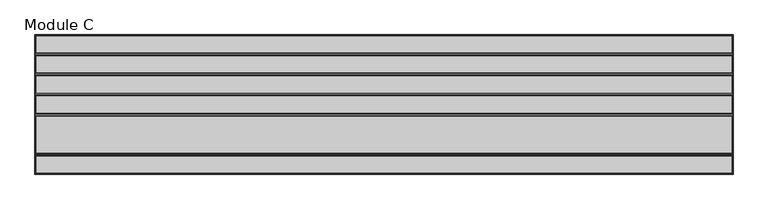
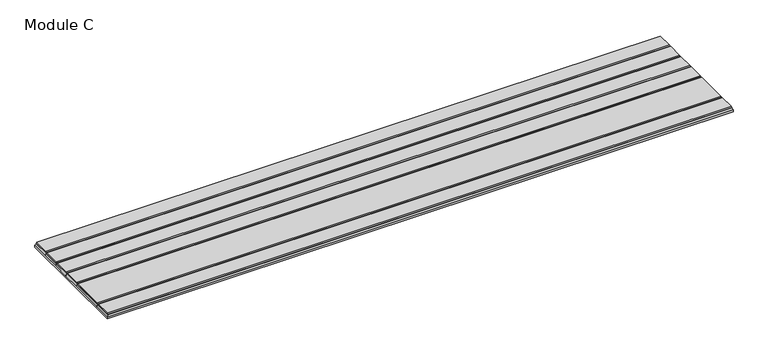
"""IFC4 building model written with IfcOpenShell, lengths in millimetres: proxy geometry, FilzFelt_Gap : Module C."""

from ifc_helpers import new_model, si_unit, origin, place, context, project, spatial, faceted_brep, source, transform, mapped, element, save


def module_c_0c66536b(model_context):
    return source(origin(), model_context, "Body", "Brep", [
        faceted_brep([(-760.095, -150.495, 9.525), (760.095, -150.495, 9.525), (760.095, -110.7621429, 9.525), (-760.095, -110.7621429, 9.525), (760.095, 150.495, 9.525), (-760.095, 150.495, 9.525), (-760.095, 110.7621429, 9.525), (760.095, 110.7621429, 9.525), (760.095, 67.2192857, 9.525), (760.095, 106.9521429, 9.525), (-760.095, 106.9521429, 9.525), (-760.095, 67.2192857, 9.525), (760.095, 23.6764286, 9.525), (760.095, 63.4092857, 9.525), (-760.095, 63.4092857, 9.525), (-760.095, 23.6764286, 9.525), (760.095, -19.8664286, 9.525), (760.095, 19.8664286, 9.525), (-760.095, 19.8664286, 9.525), (-760.095, -19.8664286, 9.525), (760.095, -106.9521429, 9.525), (760.095, -23.6764286, 9.525), (-760.095, -23.6764286, 9.525), (-760.095, -106.9521429, 9.525), (762.0, 152.4, 0.0), (762.0, -152.4, 0.0), (-762.0, -152.4, 0.0), (-762.0, 152.4, 0.0), (-762.0, 152.4, 4.7625), (762.0, 152.4, 4.7625), (-762.0, -152.4, 4.7625), (-762.0, -108.8571429, 4.7625), (-762.0, -21.7714286, 4.7625), (-762.0, 21.7714286, 4.7625), (-762.0, 65.3142857, 4.7625), (-762.0, 108.8571429, 4.7625), (762.0, -152.4, 4.7625), (762.0, 108.8571429, 4.7625), (762.0, 65.3142857, 4.7625), (762.0, 21.7714286, 4.7625), (762.0, -21.7714286, 4.7625), (762.0, -108.8571429, 4.7625)], [[[0, 1, 2, 3]], [[4, 5, 6, 7]], [[8, 9, 10, 11]], [[12, 13, 14, 15]], [[16, 17, 18, 19]], [[20, 21, 22, 23]], [[24, 25, 26, 27]], [[24, 27, 28, 29]], [[27, 26, 30, 31, 32, 33, 34, 35, 28]], [[26, 25, 36, 30]], [[25, 24, 29, 37, 38, 39, 40, 41, 36]], [[9, 8, 38, 37]], [[13, 12, 39, 38]], [[17, 16, 40, 39]], [[21, 20, 41, 40]], [[1, 36, 41, 2]], [[29, 4, 7, 37]], [[36, 1, 0, 30]], [[11, 10, 35, 34]], [[15, 14, 34, 33]], [[19, 18, 33, 32]], [[23, 22, 32, 31]], [[30, 0, 3, 31]], [[5, 28, 35, 6]], [[28, 5, 4, 29]], [[35, 37, 7, 6]], [[37, 35, 10, 9]], [[34, 38, 8, 11]], [[38, 34, 14, 13]], [[33, 39, 12, 15]], [[39, 33, 18, 17]], [[32, 40, 16, 19]], [[40, 32, 22, 21]], [[31, 41, 20, 23]], [[41, 31, 3, 2]]]),
        faceted_brep([(760.095, -150.495, 9.525), (-760.095, -150.495, 9.525), (-760.095, -110.7621429, 9.525), (760.095, -110.7621429, 9.525), (-758.825, -149.225, 12.7), (758.825, -149.225, 12.7), (758.825, -112.0321429, 12.7), (-758.825, -112.0321429, 12.7)], [[[0, 1, 2, 3]], [[4, 5, 6, 7]], [[5, 0, 3, 6]], [[0, 5, 4, 1]], [[1, 4, 7, 2]], [[3, 2, 7, 6]]]),
        faceted_brep([(-760.095, 150.495, 9.525), (760.095, 150.495, 9.525), (760.095, 110.7621429, 9.525), (-760.095, 110.7621429, 9.525), (758.825, 149.225, 12.7), (-758.825, 149.225, 12.7), (-758.825, 112.0321429, 12.7), (758.825, 112.0321429, 12.7)], [[[0, 1, 2, 3]], [[4, 5, 6, 7]], [[1, 4, 7, 2]], [[5, 0, 3, 6]], [[0, 5, 4, 1]], [[3, 2, 7, 6]]]),
        faceted_brep([(760.095, 106.9521429, 9.525), (760.095, 67.2192857, 9.525), (-760.095, 67.2192857, 9.525), (-760.095, 106.9521429, 9.525), (758.825, 68.4892857, 12.7), (758.825, 105.6821429, 12.7), (-758.825, 105.6821429, 12.7), (-758.825, 68.4892857, 12.7)], [[[0, 1, 2, 3]], [[4, 5, 6, 7]], [[1, 0, 5, 4]], [[3, 2, 7, 6]], [[0, 3, 6, 5]], [[2, 1, 4, 7]]]),
        faceted_brep([(760.095, 63.4092857, 9.525), (760.095, 23.6764286, 9.525), (-760.095, 23.6764286, 9.525), (-760.095, 63.4092857, 9.525), (758.825, 24.9464286, 12.7), (758.825, 62.1392857, 12.7), (-758.825, 62.1392857, 12.7), (-758.825, 24.9464286, 12.7)], [[[0, 1, 2, 3]], [[4, 5, 6, 7]], [[1, 0, 5, 4]], [[3, 2, 7, 6]], [[0, 3, 6, 5]], [[2, 1, 4, 7]]]),
        faceted_brep([(760.095, 19.8664286, 9.525), (760.095, -19.8664286, 9.525), (-760.095, -19.8664286, 9.525), (-760.095, 19.8664286, 9.525), (758.825, -18.5964286, 12.7), (758.825, 18.5964286, 12.7), (-758.825, 18.5964286, 12.7), (-758.825, -18.5964286, 12.7)], [[[0, 1, 2, 3]], [[4, 5, 6, 7]], [[1, 0, 5, 4]], [[3, 2, 7, 6]], [[0, 3, 6, 5]], [[2, 1, 4, 7]]]),
        faceted_brep([(760.095, -23.6764286, 9.525), (760.095, -106.9521429, 9.525), (-760.095, -106.9521429, 9.525), (-760.095, -23.6764286, 9.525), (758.825, -105.6821429, 12.7), (758.825, -24.9464286, 12.7), (-758.825, -24.9464286, 12.7), (-758.825, -105.6821429, 12.7)], [[[0, 1, 2, 3]], [[4, 5, 6, 7]], [[1, 0, 5, 4]], [[3, 2, 7, 6]], [[0, 3, 6, 5]], [[2, 1, 4, 7]]]),
    ])


if __name__ == "__main__":
    model = new_model("IFC4")
    model_context = context("Model", 3, world=origin())
    ifc_project = project(units=[si_unit("LENGTHUNIT", "METRE", prefix="MILLI")], contexts=[model_context])
    site = spatial("IfcSite", under=ifc_project)
    building = spatial("IfcBuilding", under=site)
    placement = place(None, origin())
    module_c_shape = module_c_0c66536b(model_context)
    element("IfcBuildingElementProxy", 1, Name="FilzFelt_Gap : Module C", ObjectType="FilzFelt_Gap : Module C", at=placement, inside=building, context=model_context, shape_type="MappedRepresentation", body=[
        mapped(module_c_shape, transform((0.0, 0.0, 0.0), x_axis=(1.0, 0.0, 0.0), y_axis=(0.0, 1.0, 0.0), z_axis=(0.0, 0.0, 1.0))),
    ])
    save(model, "model.ifc")
